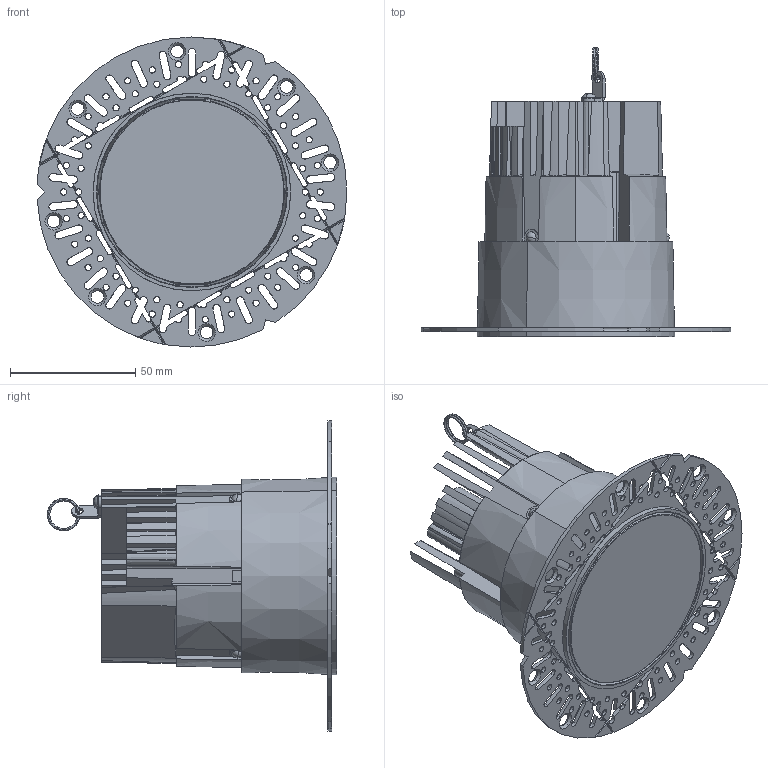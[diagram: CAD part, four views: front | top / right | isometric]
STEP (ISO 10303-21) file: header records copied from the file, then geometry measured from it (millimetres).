
FILE_DESCRIPTION (( 'STEP AP214' ), '1' );
FILE_NAME ('WG-H-PTD3-FA-RPT-RMPO.STEP', '2023-02-17T20:27:32', ( '' ), ( '' ), 'SwSTEP 2.0', 'SolidWorks 2021', '' );
FILE_SCHEMA (( 'AUTOMOTIVE_DESIGN' ));
Length unit declared in the file: millimetre
Products named in the file (16): Part1^WG-H-PTD3-FA-RPT-_-__; 340-10027-400_stretch out; 41002 - Push Latch Runner, Small; WG-H-PTD3-FA-RPT-RMPO; 310-10082-200_310-10082-200; 370-10013-200; 100 ProTools heat sink aircraft wire loop 2019-09-26; Modified round bracket v7; 720-10044-300; GDL PLUS heat sink aircraft wire L-bracket; 720-10042-300; 760-10050-400; 820-10713_Closed; 41002 - Push Latch Body, Small; WG-CV-PTD3-RMPO-___WG-CV-PTD3-RMPO-WL; 41002 - Push Latch Clip, Small A
Assembly tree (16 placements, depth 3):
  Part1^WG-H-PTD3-FA-RPT-_-__
  WG-H-PTD3-FA-RPT-RMPO
    720-10042-300
    820-10713_Closed
      41002 - Push Latch Body, Small
      41002 - Push Latch Runner, Small
      41002 - Push Latch Clip, Small A
    720-10044-300
    370-10013-200  x3
    310-10082-200_310-10082-200
    GDL PLUS heat sink aircraft wire L-bracket
    100 ProTools heat sink aircraft wire loop 2019-09-26
    WG-CV-PTD3-RMPO-___WG-CV-PTD3-RMPO-WL
      760-10050-400
      340-10027-400_stretch out
      Modified round bracket v7
Bounding box: 123.93 x 115.7 x 124 mm (x, y, z)
Volume: 126800.6 mm3; surface area: 123834.3 mm2
Topology: 14 solids, 14 shells, 1418 faces, 4063 edges, 2608 vertices
Faces by surface type: plane 698, cone 404, cylinder 177, torus 71, bspline 37, sphere 31
Entity records: 49320 total; most frequent: CARTESIAN_POINT 12057, ORIENTED_EDGE 7998, DIRECTION 7491, EDGE_CURVE 3999, AXIS2_PLACEMENT_3D 2724, VERTEX_POINT 2582, LINE 2043, VECTOR 2043
